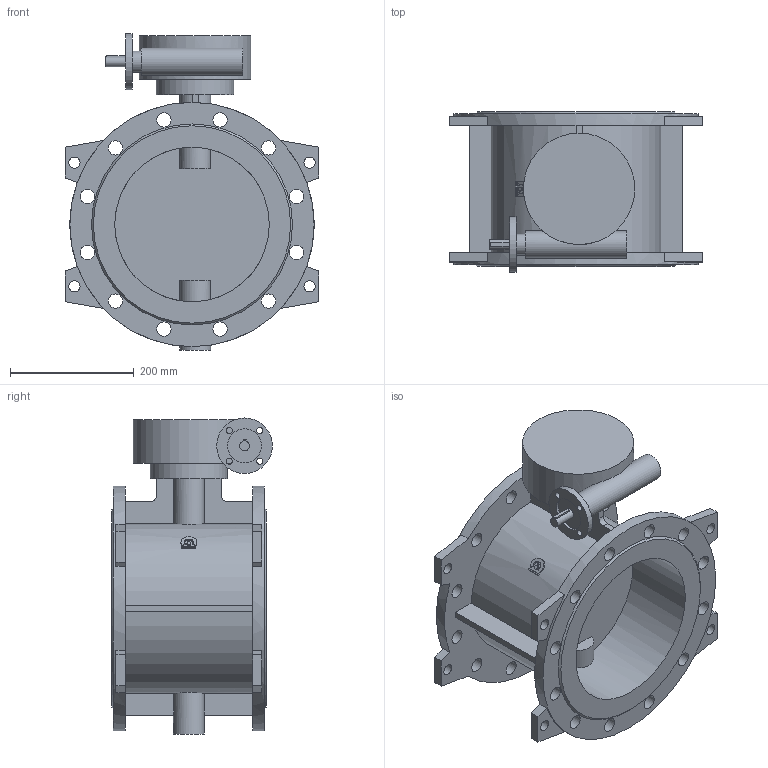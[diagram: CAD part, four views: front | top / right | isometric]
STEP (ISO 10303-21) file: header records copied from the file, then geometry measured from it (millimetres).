
FILE_DESCRIPTION(('STEP AP203'), '1');
FILE_NAME('Çàòâîð 023F.Z DN250 PN10_ð-ð_ôë', '', ('UNSPECIFIED'), ('UNSPECIFIED'), 'ASCON STEP Converter 1.6', 'ASCON Math Kernel', '');
FILE_SCHEMA(('CONFIG_CONTROL_DESIGN'));
Length unit declared in the file: millimetre
Bounding box: 410 x 260 x 511 mm (x, y, z)
Volume: 9477120.8 mm3; surface area: 1036613.8 mm2
Topology: 1 solids, 1 shells, 170 faces, 433 edges, 288 vertices
Faces by surface type: plane 95, cylinder 73, cone 2
Full cylindrical faces by diameter (mm): 8.3 x4, 10 x4, 12 x4, 16 x1, 18 x8, 23 x24, 34 x1, 44 x1, 50 x1, 55 x1, 90 x1, 125 x1, 180 x1, 250 x2, 395 x2
Entity records: 7576 total; most frequent: CARTESIAN_POINT 2026, DIRECTION 860, ORIENTED_EDGE 744, EDGE_CURVE 372, AXIS2_PLACEMENT_3D 335, EDGE_LOOP 326, VERTEX_POINT 288, FACE_BOUND 214
